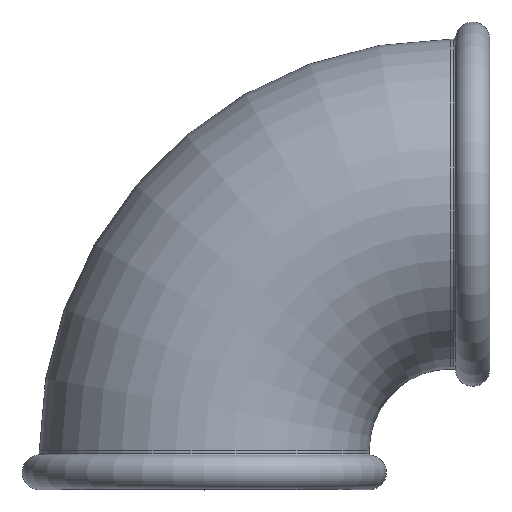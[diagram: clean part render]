
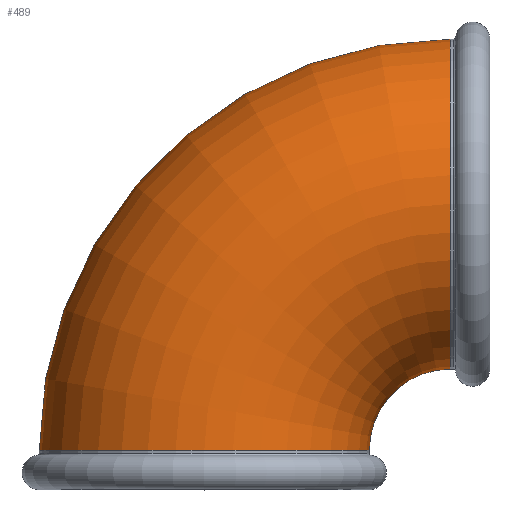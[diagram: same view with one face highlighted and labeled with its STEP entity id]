
A CAD part, top view. The second image highlights one B-rep face of the part: STEP entity #489.
In plain terms, the highlighted toroidal (fillet/blend) face has major radius 50 mm and minor radius 33.5 mm.
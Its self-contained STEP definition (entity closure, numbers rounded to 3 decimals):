
#152=CARTESIAN_POINT('',(0.,50.,0.));
#153=DIRECTION('',(1.,0.,0.));
#154=DIRECTION('',(0.,1.,0.));
#155=AXIS2_PLACEMENT_3D('',#152,#153,#154);
#157=CARTESIAN_POINT('',(-50.,0.,0.));
#158=DIRECTION('',(0.,1.,0.));
#159=DIRECTION('',(-1.,0.,0.));
#160=AXIS2_PLACEMENT_3D('',#157,#158,#159);
#162=CARTESIAN_POINT('',(0.,0.,0.));
#163=DIRECTION('',(0.,0.,-1.));
#164=DIRECTION('',(-1.,0.,0.));
#165=AXIS2_PLACEMENT_3D('',#162,#163,#164);
#220=CARTESIAN_POINT('',(0.,0.,0.));
#221=DIRECTION('',(0.,0.,-1.));
#222=DIRECTION('',(-1.,0.,0.));
#223=AXIS2_PLACEMENT_3D('',#220,#221,#222);
#229=CARTESIAN_POINT('',(-83.5,0.,0.));
#230=CARTESIAN_POINT('',(-16.5,0.,0.));
#231=VERTEX_POINT('',#229);
#232=VERTEX_POINT('',#230);
#237=CARTESIAN_POINT('',(0.,83.5,0.));
#238=CARTESIAN_POINT('',(0.,16.5,0.));
#239=VERTEX_POINT('',#237);
#240=VERTEX_POINT('',#238);
#475=CARTESIAN_POINT('',(0.,0.,0.));
#476=DIRECTION('',(0.,0.,-1.));
#477=DIRECTION('',(1.,0.,0.));
#478=AXIS2_PLACEMENT_3D('',#475,#476,#477);
#479=TOROIDAL_SURFACE('',#478,50.,33.5);
#481=ORIENTED_EDGE('',*,*,#480,.F.);
#483=ORIENTED_EDGE('',*,*,#482,.T.);
#484=ORIENTED_EDGE('',*,*,#458,.T.);
#486=ORIENTED_EDGE('',*,*,#485,.F.);
#487=EDGE_LOOP('',(#481,#483,#484,#486));
#488=FACE_OUTER_BOUND('',#487,.F.);
#489=ADVANCED_FACE('',(#488),#479,.T.);
#156=CIRCLE('',#155,33.5);
#161=CIRCLE('',#160,33.5);
#166=CIRCLE('',#165,83.5);
#224=CIRCLE('',#223,16.5);
#458=EDGE_CURVE('',#239,#240,#156,.T.);
#480=EDGE_CURVE('',#231,#232,#161,.T.);
#482=EDGE_CURVE('',#231,#239,#166,.T.);
#485=EDGE_CURVE('',#232,#240,#224,.T.);
